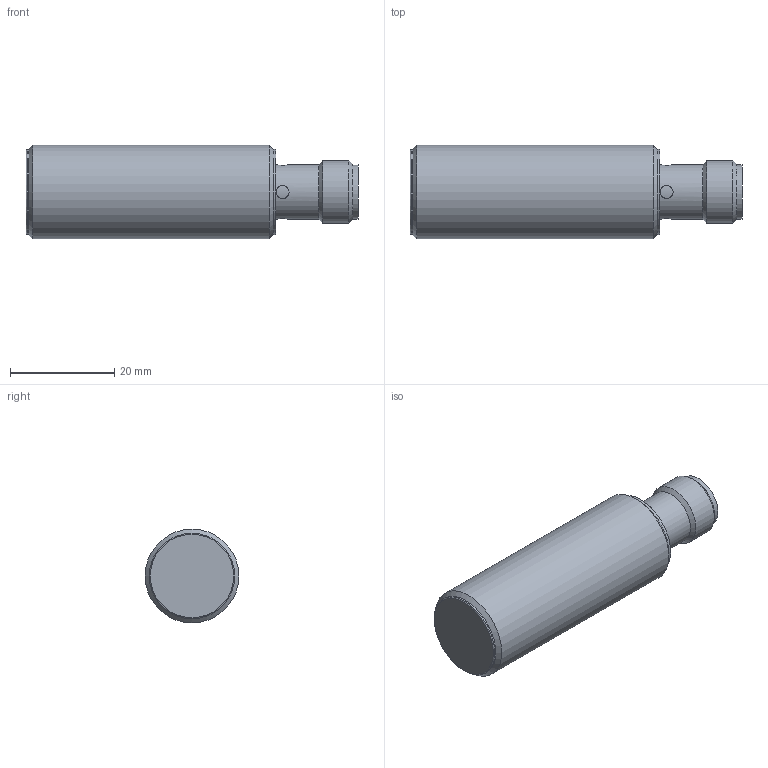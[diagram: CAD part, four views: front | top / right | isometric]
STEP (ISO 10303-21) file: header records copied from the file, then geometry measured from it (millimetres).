
FILE_DESCRIPTION( ( 'Unknown' ), '1' );
FILE_NAME( '//srvmdfs14/Dati/Ricerca&Sviluppo/2_Documenti_Tecnici/1_Disegni_Mec/Figurini/STP/AK1_1H_fig.stp', 'Unknown', ( 'Unknown' ), ( 'Unknown' ), 'PSStep 16.0.42', 'Unknown', ' ' );
FILE_SCHEMA( ( 'AUTOMOTIVE_DESIGN { 1 0 10303 214 1 1 1 1 }' ) );
Length unit declared in the file: millimetre
Products named in the file (5): Assem1
Assembly tree (4 placements, depth 2):
  Assem1
    (unnamed)
    (unnamed)
    (unnamed)
    (unnamed)
Bounding box: 63.8 x 18 x 18 mm (x, y, z)
Volume: 13129.7 mm3; surface area: 5749.7 mm2
Topology: 4 solids, 4 shells, 81 faces, 197 edges, 127 vertices
Faces by surface type: cylinder 41, plane 25, cone 9, sphere 4, torus 2
Full cylindrical faces by diameter (mm): 1 x4, 2.5 x4, 8.4 x1, 9.6 x1, 9.7 x1, 9.8 x1, 10.5 x2, 12 x1, 16.4 x2, 18 x1
Entity records: 2828 total; most frequent: CARTESIAN_POINT 645, DIRECTION 380, ORIENTED_EDGE 278, AXIS2_PLACEMENT_3D 164, EDGE_CURVE 139, EDGE_LOOP 122, VERTEX_POINT 107, FACE_OUTER_BOUND 101
